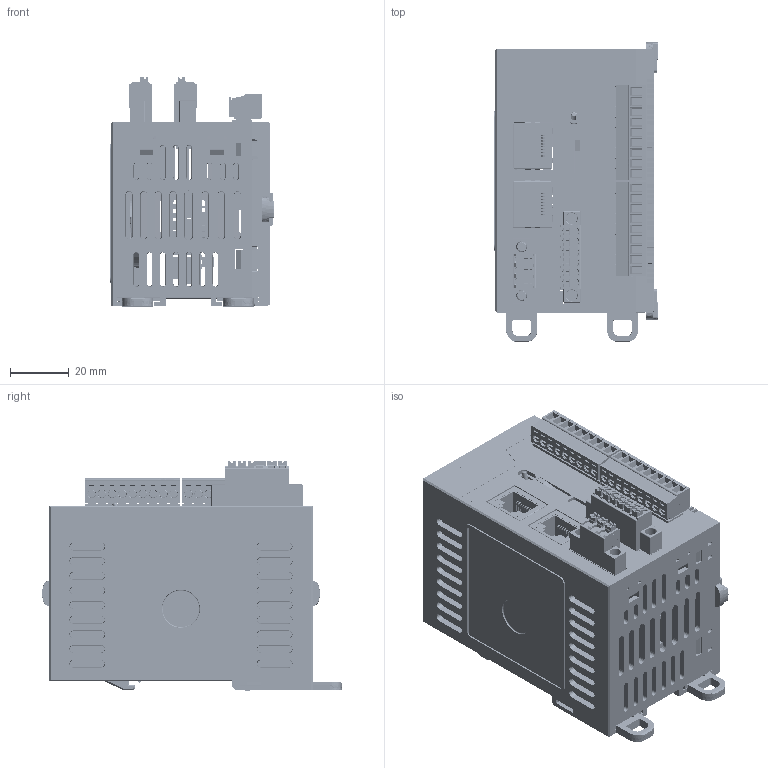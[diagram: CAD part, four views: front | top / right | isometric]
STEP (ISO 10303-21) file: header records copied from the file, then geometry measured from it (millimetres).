
FILE_DESCRIPTION (( 'STEP AP203' ), '1' );
FILE_NAME ('00. CM3-SPLUS Assy.STEP', '2025-02-06T08:20:30', ( '' ), ( '' ), 'SwSTEP 2.0', 'SolidWorks 2024', '' );
FILE_SCHEMA (( 'CONFIG_CONTROL_DESIGN' ));
Length unit declared in the file: millimetre
Products named in the file (32): Connector_BCP24190_A; CM3_Hook_BCP09271_A_A; SW_BCT22082_SK12D02V6_A; 15EDGK-3.5-09P-14-00A(H); 15EDGRC-3.5-09P-14-00A(H); Right Case_BCP24458, BCP24459_A_BCP24458_CM3-SP16PDRF_인쇄도; Connector_BCP24190_A_small; IO PCB_품번미정_Z2_16점; LEFT CASE_BCP24455_A(최종); CR2032_PART; POWER PCB_품번미정_Z2; Relay; SW_BCP22232_Up; Heat Sink_(20,20,10); Connector_USB-C_U52A-011B-161082; 00. CM3-SPLUS Assy; CPU PCB_품번미정_Z2_16점; Header socket_BCP22056_20x2; Connector_BCP22124; RB1-125BAK1A; CTS-2245; Window_BCP24460, BCP24461, BCP24462_A_BCP24460_CM3-SP16PDRF 인쇄도; Connector__3.5_6P_Anytek_BCP22192; 15EDGKNM-3.5-06P-14-1000A(H); mSD; CR2032_CASE; 15EDGKNM-3.81-03P-1Y-1000A(H)-C; Upper case_BCP24456,BCP24457_A_BCP24456 인쇄도_16점; Heat Sink_H10mm; 20037WR-07; 디버그 Connector; CM3_Exp Hook_BCP09270_A_A
Assembly tree (48 placements, depth 2):
  00. CM3-SPLUS Assy
    Right Case_BCP24458, BCP24459_A_BCP24458_CM3-SP16PDRF_인쇄도
    Upper case_BCP24456,BCP24457_A_BCP24456 인쇄도_16점
    Window_BCP24460, BCP24461, BCP24462_A_BCP24460_CM3-SP16PDRF 인쇄도
    IO PCB_품번미정_Z2_16점
    CPU PCB_품번미정_Z2_16점
    POWER PCB_품번미정_Z2
    Connector_BCP24190_A  x3
    CM3_Exp Hook_BCP09270_A_A  x2
    CM3_Hook_BCP09271_A_A  x2
    Connector_BCP22124
    15EDGKNM-3.81-03P-1Y-1000A(H)-C
    Connector__3.5_6P_Anytek_BCP22192
    15EDGKNM-3.5-06P-14-1000A(H)
    SW_BCT22082_SK12D02V6_A
    Connector_USB-C_U52A-011B-161082
    SW_BCP22232_Up
    RB1-125BAK1A  x2
    Relay  x8
    Heat Sink_H10mm
    Header socket_BCP22056_20x2  x2
    CR2032_CASE  x2
    mSD
    CTS-2245
    Connector_BCP24190_A_small  x2
    디버그 Connector
    20037WR-07
    Heat Sink_(20,20,10)
    LEFT CASE_BCP24455_A(최종)
    CR2032_PART
    15EDGRC-3.5-09P-14-00A(H)  x2
    15EDGK-3.5-09P-14-00A(H)  x2
Bounding box: 56 x 102.46 x 78.5 mm (x, y, z)
Volume: 109656.7 mm3; surface area: 143450.9 mm2
Topology: 91 solids, 97 shells, 17536 faces, 47055 edges, 30615 vertices
Faces by surface type: plane 13671, cylinder 1630, bspline 1412, cone 441, torus 352, sphere 30
Entity records: 457212 total; most frequent: CARTESIAN_POINT 148925, ORIENTED_EDGE 67224, DIRECTION 55073, EDGE_CURVE 33612, LINE 26837, VECTOR 26837, VERTEX_POINT 22019, AXIS2_PLACEMENT_3D 14118
